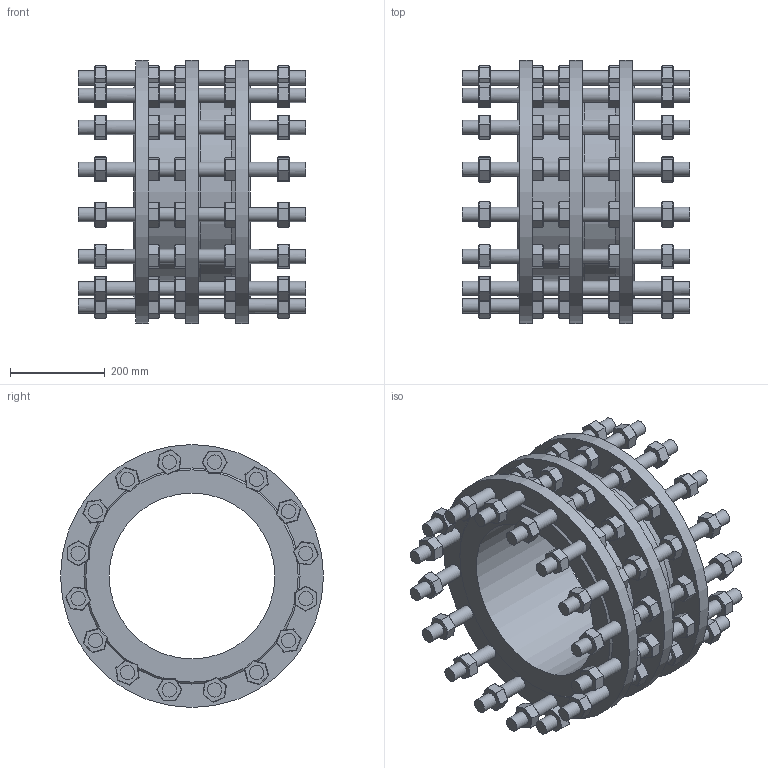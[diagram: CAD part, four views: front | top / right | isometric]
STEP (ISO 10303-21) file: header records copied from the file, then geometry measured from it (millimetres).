
FILE_DESCRIPTION (( 'STEP AP203' ), '1' );
FILE_NAME ('873035000741000.STEP', '2021-11-05T09:33:02', ( '' ), ( '' ), 'SwSTEP 2.0', 'SolidWorks 2020', '' );
FILE_SCHEMA (( 'CONFIG_CONTROL_DESIGN' ));
Length unit declared in the file: millimetre
Products named in the file (1): 873035000741000
Bounding box: 480 x 555 x 555 mm (x, y, z)
Volume: 22295281.2 mm3; surface area: 2598363.1 mm2
Topology: 81 solids, 81 shells, 1955 faces, 4203 edges, 2449 vertices
Faces by surface type: plane 1641, cone 163, cylinder 151
Full cylindrical faces by diameter (mm): 28 x80, 30 x64, 350 x1, 375 x1, 400 x1, 416 x1, 555 x3
Entity records: 49073 total; most frequent: DIRECTION 8206, CARTESIAN_POINT 8170, ORIENTED_EDGE 7654, EDGE_CURVE 3827, VECTOR 3360, LINE 3360, EDGE_LOOP 2534, AXIS2_PLACEMENT_3D 2423
